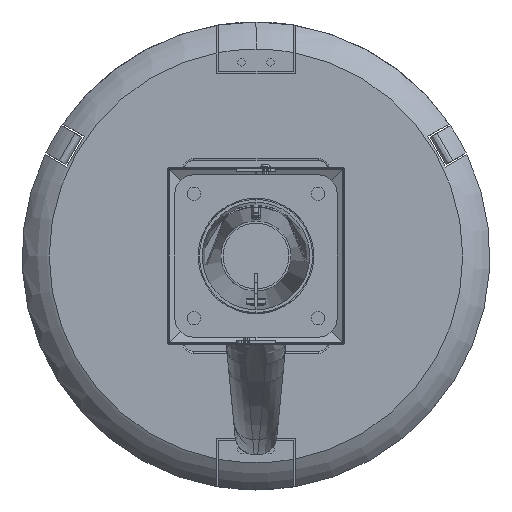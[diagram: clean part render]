
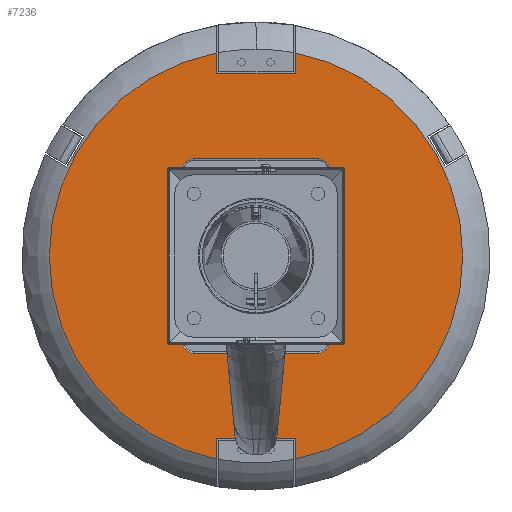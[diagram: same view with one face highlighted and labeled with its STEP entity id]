
A CAD part, front view. The second image highlights one B-rep face of the part: STEP entity #7236.
In plain terms, the highlighted planar face has unit normal (0, -1, 0).
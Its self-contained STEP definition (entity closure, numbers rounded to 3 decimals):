
#735 = CARTESIAN_POINT ( 'NONE',  ( 0., -25.037, 0. ) ) ;
#784 = EDGE_CURVE ( 'NONE', #26484, #11364, #13288, .T. ) ;
#841 = DIRECTION ( 'NONE',  ( -1., 0., 0. ) ) ;
#1311 = DIRECTION ( 'NONE',  ( 1., 0., 0. ) ) ;
#1790 = EDGE_CURVE ( 'NONE', #16617, #20078, #27904, .T. ) ;
#1810 = DIRECTION ( 'NONE',  ( 0., 0., 1. ) ) ;
#1830 = LINE ( 'NONE', #13356, #27463 ) ;
#1979 = CARTESIAN_POINT ( 'NONE',  ( 77., -25.037, 90. ) ) ;
#2338 = DIRECTION ( 'NONE',  ( 0., -1., 0. ) ) ;
#2530 = EDGE_CURVE ( 'NONE', #12499, #20425, #8153, .T. ) ;
#2895 = LINE ( 'NONE', #12144, #18374 ) ;
#2943 = EDGE_CURVE ( 'NONE', #20078, #26484, #19434, .T. ) ;
#3153 = DIRECTION ( 'NONE',  ( 0., 1., 0. ) ) ;
#3460 = DIRECTION ( 'NONE',  ( 1., 0., 0. ) ) ;
#3554 = CARTESIAN_POINT ( 'NONE',  ( -41., -25.037, 212.579 ) ) ;
#3594 = CARTESIAN_POINT ( 'NONE',  ( 41., -25.037, -212.579 ) ) ;
#4663 = CARTESIAN_POINT ( 'NONE',  ( 65., -25.037, -102. ) ) ;
#4885 = VECTOR ( 'NONE', #10220, 1000. ) ;
#4972 = DIRECTION ( 'NONE',  ( 0., 0., -1. ) ) ;
#5002 = ORIENTED_EDGE ( 'NONE', *, *, #14790, .F. ) ;
#5702 = ORIENTED_EDGE ( 'NONE', *, *, #1790, .T. ) ;
#5886 = CARTESIAN_POINT ( 'NONE',  ( 40., -25.037, 190.713 ) ) ;
#6008 = VERTEX_POINT ( 'NONE', #12269 ) ;
#6059 = DIRECTION ( 'NONE',  ( 0., 1., 0. ) ) ;
#6654 = VERTEX_POINT ( 'NONE', #12612 ) ;
#7236 = ADVANCED_FACE ( 'NONE', ( #16478, #21130 ), #16899, .F. ) ;
#7510 = ORIENTED_EDGE ( 'NONE', *, *, #21145, .T. ) ;
#7546 = LINE ( 'NONE', #16466, #16204 ) ;
#7592 = EDGE_CURVE ( 'NONE', #12128, #14845, #26837, .T. ) ;
#7932 = ORIENTED_EDGE ( 'NONE', *, *, #784, .T. ) ;
#8153 = LINE ( 'NONE', #26304, #17222 ) ;
#8296 = ORIENTED_EDGE ( 'NONE', *, *, #10891, .T. ) ;
#8639 = VERTEX_POINT ( 'NONE', #11495 ) ;
#8654 = AXIS2_PLACEMENT_3D ( 'NONE', #25469, #2338, #9487 ) ;
#8771 = CARTESIAN_POINT ( 'NONE',  ( 65., -25.037, 90. ) ) ;
#8902 = EDGE_CURVE ( 'NONE', #11364, #17419, #17630, .T. ) ;
#9219 = DIRECTION ( 'NONE',  ( 0., 1., 0. ) ) ;
#9478 = DIRECTION ( 'NONE',  ( 1., 0., 0. ) ) ;
#9487 = DIRECTION ( 'NONE',  ( 0., 0., -1. ) ) ;
#9632 = CARTESIAN_POINT ( 'NONE',  ( 0., -25.037, 102. ) ) ;
#9785 = DIRECTION ( 'NONE',  ( 0., 0., 1. ) ) ;
#10220 = DIRECTION ( 'NONE',  ( 0., 0., 1. ) ) ;
#10228 = VERTEX_POINT ( 'NONE', #3594 ) ;
#10305 = DIRECTION ( 'NONE',  ( 0., 0., 1. ) ) ;
#10418 = AXIS2_PLACEMENT_3D ( 'NONE', #8771, #14000, #9785 ) ;
#10505 = EDGE_CURVE ( 'NONE', #8639, #6654, #12776, .T. ) ;
#10562 = LINE ( 'NONE', #9632, #23411 ) ;
#10816 = DIRECTION ( 'NONE',  ( 0., 0., -1. ) ) ;
#10891 = EDGE_CURVE ( 'NONE', #21758, #10228, #2895, .T. ) ;
#11077 = CIRCLE ( 'NONE', #8654, 216.497 ) ;
#11087 = EDGE_CURVE ( 'NONE', #10228, #20425, #14087, .T. ) ;
#11364 = VERTEX_POINT ( 'NONE', #23670 ) ;
#11495 = CARTESIAN_POINT ( 'NONE',  ( -41., -25.037, -212.579 ) ) ;
#11558 = CIRCLE ( 'NONE', #14421, 12. ) ;
#11961 = CARTESIAN_POINT ( 'NONE',  ( 0., -25.037, 0. ) ) ;
#12033 = ORIENTED_EDGE ( 'NONE', *, *, #11087, .T. ) ;
#12101 = DIRECTION ( 'NONE',  ( 0., 0., 1. ) ) ;
#12102 = DIRECTION ( 'NONE',  ( 0., 0., -1. ) ) ;
#12128 = VERTEX_POINT ( 'NONE', #14478 ) ;
#12144 = CARTESIAN_POINT ( 'NONE',  ( 41., -25.037, -241.713 ) ) ;
#12269 = CARTESIAN_POINT ( 'NONE',  ( -41., -25.037, 190.713 ) ) ;
#12499 = VERTEX_POINT ( 'NONE', #18795 ) ;
#12612 = CARTESIAN_POINT ( 'NONE',  ( -41., -25.037, -190.713 ) ) ;
#12776 = LINE ( 'NONE', #19397, #4885 ) ;
#12949 = CARTESIAN_POINT ( 'NONE',  ( -65., -25.037, -90. ) ) ;
#12963 = ORIENTED_EDGE ( 'NONE', *, *, #2943, .T. ) ;
#13078 = EDGE_LOOP ( 'NONE', ( #12963, #7932, #21047, #25263, #7510, #19292, #17563, #5702 ) ) ;
#13288 = CIRCLE ( 'NONE', #25313, 12. ) ;
#13356 = CARTESIAN_POINT ( 'NONE',  ( -41., -25.037, 0. ) ) ;
#13890 = AXIS2_PLACEMENT_3D ( 'NONE', #20223, #9219, #20660 ) ;
#14000 = DIRECTION ( 'NONE',  ( 0., 1., 0. ) ) ;
#14087 = CIRCLE ( 'NONE', #26635, 216.497 ) ;
#14421 = AXIS2_PLACEMENT_3D ( 'NONE', #28613, #6059, #1810 ) ;
#14478 = CARTESIAN_POINT ( 'NONE',  ( 65., -25.037, 102. ) ) ;
#14790 = EDGE_CURVE ( 'NONE', #27189, #6008, #1830, .T. ) ;
#14845 = VERTEX_POINT ( 'NONE', #1979 ) ;
#15095 = LINE ( 'NONE', #24291, #22628 ) ;
#15278 = EDGE_CURVE ( 'NONE', #17419, #23083, #11558, .T. ) ;
#15711 = EDGE_CURVE ( 'NONE', #6654, #21758, #15095, .T. ) ;
#15800 = CARTESIAN_POINT ( 'NONE',  ( 41., -25.037, 212.579 ) ) ;
#15988 = CARTESIAN_POINT ( 'NONE',  ( 77., -25.037, -90. ) ) ;
#16204 = VECTOR ( 'NONE', #4972, 1000. ) ;
#16466 = CARTESIAN_POINT ( 'NONE',  ( 77., -25.037, 0. ) ) ;
#16478 = FACE_BOUND ( 'NONE', #13078, .T. ) ;
#16607 = ORIENTED_EDGE ( 'NONE', *, *, #22223, .T. ) ;
#16617 = VERTEX_POINT ( 'NONE', #15988 ) ;
#16899 = PLANE ( 'NONE',  #26754 ) ;
#17100 = DIRECTION ( 'NONE',  ( 0., 0., -1. ) ) ;
#17222 = VECTOR ( 'NONE', #10305, 1000. ) ;
#17419 = VERTEX_POINT ( 'NONE', #25212 ) ;
#17563 = ORIENTED_EDGE ( 'NONE', *, *, #27762, .T. ) ;
#17608 = DIRECTION ( 'NONE',  ( 0., 1., 0. ) ) ;
#17630 = LINE ( 'NONE', #26887, #22030 ) ;
#17755 = DIRECTION ( 'NONE',  ( 0., 0., 1. ) ) ;
#17780 = DIRECTION ( 'NONE',  ( 0., 0., 1. ) ) ;
#18374 = VECTOR ( 'NONE', #17100, 1000. ) ;
#18795 = CARTESIAN_POINT ( 'NONE',  ( 41., -25.037, 190.713 ) ) ;
#19263 = VECTOR ( 'NONE', #3460, 1000. ) ;
#19280 = CARTESIAN_POINT ( 'NONE',  ( 0., -25.037, -102. ) ) ;
#19292 = ORIENTED_EDGE ( 'NONE', *, *, #7592, .T. ) ;
#19397 = CARTESIAN_POINT ( 'NONE',  ( -41., -25.037, 0. ) ) ;
#19434 = LINE ( 'NONE', #19280, #24509 ) ;
#19583 = ORIENTED_EDGE ( 'NONE', *, *, #15711, .T. ) ;
#20078 = VERTEX_POINT ( 'NONE', #4663 ) ;
#20223 = CARTESIAN_POINT ( 'NONE',  ( 65., -25.037, -90. ) ) ;
#20425 = VERTEX_POINT ( 'NONE', #15800 ) ;
#20578 = ORIENTED_EDGE ( 'NONE', *, *, #10505, .T. ) ;
#20660 = DIRECTION ( 'NONE',  ( 0., 0., 1. ) ) ;
#21047 = ORIENTED_EDGE ( 'NONE', *, *, #8902, .T. ) ;
#21130 = FACE_OUTER_BOUND ( 'NONE', #24195, .T. ) ;
#21145 = EDGE_CURVE ( 'NONE', #23083, #12128, #10562, .T. ) ;
#21187 = CARTESIAN_POINT ( 'NONE',  ( -65., -25.037, -102. ) ) ;
#21758 = VERTEX_POINT ( 'NONE', #24920 ) ;
#21959 = CARTESIAN_POINT ( 'NONE',  ( -65., -25.037, 102. ) ) ;
#22030 = VECTOR ( 'NONE', #17780, 1000. ) ;
#22223 = EDGE_CURVE ( 'NONE', #27189, #8639, #11077, .T. ) ;
#22628 = VECTOR ( 'NONE', #1311, 1000. ) ;
#23019 = EDGE_CURVE ( 'NONE', #6008, #12499, #26606, .T. ) ;
#23083 = VERTEX_POINT ( 'NONE', #21959 ) ;
#23411 = VECTOR ( 'NONE', #9478, 1000. ) ;
#23670 = CARTESIAN_POINT ( 'NONE',  ( -77., -25.037, -90. ) ) ;
#23749 = ORIENTED_EDGE ( 'NONE', *, *, #23019, .F. ) ;
#24195 = EDGE_LOOP ( 'NONE', ( #5002, #16607, #20578, #19583, #8296, #12033, #25690, #23749 ) ) ;
#24291 = CARTESIAN_POINT ( 'NONE',  ( 40., -25.037, -190.713 ) ) ;
#24509 = VECTOR ( 'NONE', #841, 1000. ) ;
#24920 = CARTESIAN_POINT ( 'NONE',  ( 41., -25.037, -190.713 ) ) ;
#25212 = CARTESIAN_POINT ( 'NONE',  ( -77., -25.037, 90. ) ) ;
#25263 = ORIENTED_EDGE ( 'NONE', *, *, #15278, .T. ) ;
#25313 = AXIS2_PLACEMENT_3D ( 'NONE', #12949, #17608, #17755 ) ;
#25469 = CARTESIAN_POINT ( 'NONE',  ( 0., -25.037, 0. ) ) ;
#25690 = ORIENTED_EDGE ( 'NONE', *, *, #2530, .F. ) ;
#26304 = CARTESIAN_POINT ( 'NONE',  ( 41., -25.037, 241.713 ) ) ;
#26484 = VERTEX_POINT ( 'NONE', #21187 ) ;
#26606 = LINE ( 'NONE', #5886, #19263 ) ;
#26635 = AXIS2_PLACEMENT_3D ( 'NONE', #11961, #28147, #12102 ) ;
#26754 = AXIS2_PLACEMENT_3D ( 'NONE', #735, #3153, #12101 ) ;
#26837 = CIRCLE ( 'NONE', #10418, 12. ) ;
#26887 = CARTESIAN_POINT ( 'NONE',  ( -77., -25.037, 0. ) ) ;
#27189 = VERTEX_POINT ( 'NONE', #3554 ) ;
#27463 = VECTOR ( 'NONE', #10816, 1000. ) ;
#27762 = EDGE_CURVE ( 'NONE', #14845, #16617, #7546, .T. ) ;
#27904 = CIRCLE ( 'NONE', #13890, 12. ) ;
#28147 = DIRECTION ( 'NONE',  ( 0., -1., 0. ) ) ;
#28613 = CARTESIAN_POINT ( 'NONE',  ( -65., -25.037, 90. ) ) ;
